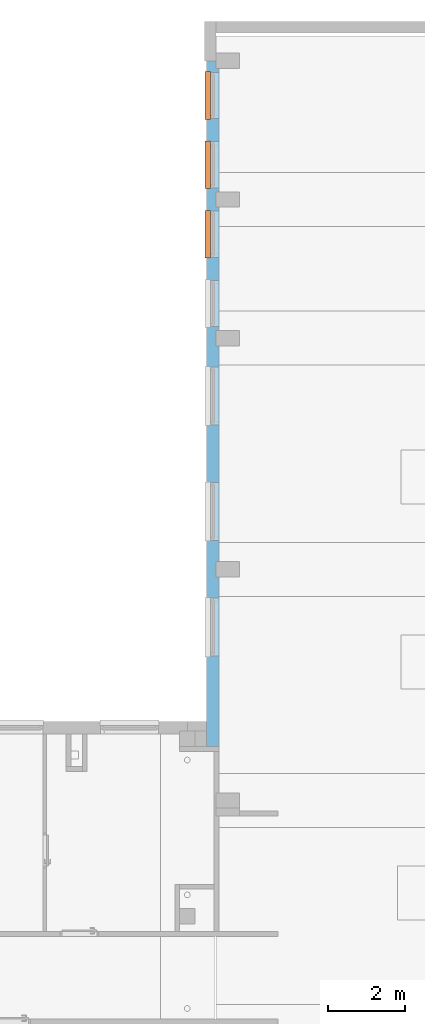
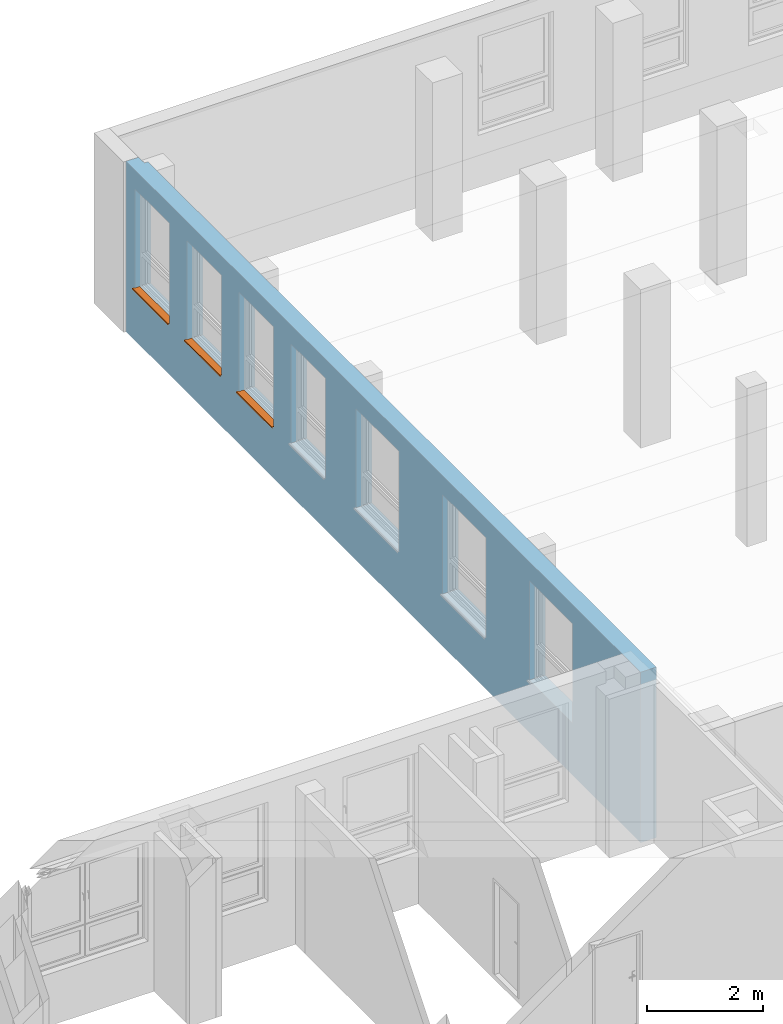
# One storey, part 45 of 50: 3 proxies, 7 openings, plus 1 element that does not belong to this part.
"""IFC4 building model written with IfcOpenShell, lengths in metres."""

import ifcopenshell
import ifcopenshell.guid

model = None  # the IFC model being written
_history = None  # IfcOwnerHistory: only IFC2X3 demands one
_inside = {}  # id of a spatial element -> (the spatial element, [elements in it])
_under = {}  # id of a project, library or spatial element -> (it, [spatial elements below it])
_declared = {}  # id of a project -> (the project, [libraries it declares])
_typed = {}  # id of a type object -> (the type object, [elements of that type])
_made_of = {}  # id of a material, layer set ... -> (it, [elements and type objects made of it])


def new_model(schema):
    """Start an empty IFC model of exactly this schema.

    Asked for "IFC4X3", IfcOpenShell would pick the latest addendum, in which some entities
    have other attributes; the version numbers below select the first issue.
    IFC2X3 requires an IfcOwnerHistory on every rooted entity: one is made here for all.
    """
    global model, _history
    if schema == "IFC4X3":
        model = ifcopenshell.file(schema_version=(4, 3, 0, 0))
    else:
        model = ifcopenshell.file(schema=schema)
    _inside.clear()
    _under.clear()
    _declared.clear()
    _typed.clear()
    _made_of.clear()
    _history = None
    if model.schema == "IFC2X3":
        org = make("IfcOrganization", Name="unknown")
        user = make(
            "IfcPersonAndOrganization",
            ThePerson=make("IfcPerson", FamilyName="unknown"),
            TheOrganization=org,
        )
        app = make(
            "IfcApplication",
            ApplicationDeveloper=org,
            Version="unknown",
            ApplicationFullName="unknown",
            ApplicationIdentifier="unknown",
        )
        _history = make(
            "IfcOwnerHistory",
            OwningUser=user,
            OwningApplication=app,
            ChangeAction="ADDED",
            CreationDate=0,
        )
    return model


def make(cls, **values):
    """One entity of the class cls with the attributes given. An attribute that is None is left unset."""
    return model.create_entity(
        cls, **{name: value for name, value in values.items() if value is not None}
    )


def entity(cls, *values):
    """Any entity or typed value of the class cls, its attributes in the order of the schema. None: left unset."""
    e = model.create_entity(cls)
    for i, value in enumerate(values):
        if value is not None:
            e[i] = value
    return e


def rooted(cls, **values):
    """An entity with a GlobalId (a new one), such as an element, a storey or a relation."""
    return make(cls, GlobalId=ifcopenshell.guid.new(), OwnerHistory=_history, **values)


def si_unit(unit_type, name, prefix=None):
    """IfcSIUnit, for example si_unit("LENGTHUNIT", "METRE", prefix="MILLI")."""
    return make("IfcSIUnit", UnitType=unit_type, Prefix=prefix, Name=name)


def converted_unit(unit_type, name, factor, base, dimensions=None, offset=None):
    """IfcConversionBasedUnit, such as the inch: factor (a typed value) times the base unit."""
    return make(
        "IfcConversionBasedUnit"
        if offset is None
        else "IfcConversionBasedUnitWithOffset",
        ConversionOffset=offset,
        Dimensions=None
        if dimensions is None
        else entity("IfcDimensionalExponents", *dimensions),
        UnitType=unit_type,
        Name=name,
        ConversionFactor=make(
            "IfcMeasureWithUnit", ValueComponent=factor, UnitComponent=base
        ),
    )


def derived_unit(unit_type, elements):
    """IfcDerivedUnit: a product of units, each with its exponent."""
    return make(
        "IfcDerivedUnit",
        Elements=[
            make("IfcDerivedUnitElement", Unit=unit, Exponent=power)
            for unit, power in elements
        ],
        UnitType=unit_type,
    )


def assignment(units):
    """IfcUnitAssignment: the units of a project."""
    return None if units is None else make("IfcUnitAssignment", Units=units)


def point(xyz):
    """IfcCartesianPoint."""
    return None if xyz is None else make("IfcCartesianPoint", Coordinates=xyz)


def direction(xyz):
    """IfcDirection."""
    return None if xyz is None else make("IfcDirection", DirectionRatios=xyz)


def frame(location, z_axis=None, x_axis=None):
    """IfcAxis2Placement3D, a coordinate frame: its origin and axes. An axis left out is left unset."""
    return make(
        "IfcAxis2Placement3D",
        Location=point(location),
        Axis=direction(z_axis),
        RefDirection=direction(x_axis),
    )


def origin():
    """The frame at (0, 0, 0) with its axes left unset."""
    return frame((0.0, 0.0, 0.0))


def origin_with_axes():
    """The frame at (0, 0, 0) with the z axis (0, 0, 1) and the x axis (1, 0, 0) written out."""
    return frame((0.0, 0.0, 0.0), z_axis=(0.0, 0.0, 1.0), x_axis=(1.0, 0.0, 0.0))


def place(relative_to, where):
    """IfcLocalPlacement: puts the frame where relative to a parent placement (None: the world)."""
    return make(
        "IfcLocalPlacement", PlacementRelTo=relative_to, RelativePlacement=where
    )


def context(
    kind, dimensions, precision=None, world=None, true_north=None, identifier=None
):
    """IfcGeometricRepresentationContext, for example the 3D "Model" context."""
    return make(
        "IfcGeometricRepresentationContext",
        ContextIdentifier=identifier,
        ContextType=kind,
        CoordinateSpaceDimension=dimensions,
        Precision=precision,
        WorldCoordinateSystem=world,
        TrueNorth=true_north,
    )


def subcontext(parent, identifier, kind, view, scale=None):
    """IfcGeometricRepresentationSubContext, for example "Body" below "Model"."""
    return make(
        "IfcGeometricRepresentationSubContext",
        ContextIdentifier=identifier,
        ContextType=kind,
        ParentContext=parent,
        TargetScale=scale,
        TargetView=view,
    )


def project(units=None, contexts=None):
    """IfcProject with its units and contexts."""
    return rooted(
        "IfcProject",
        Name="project",
        RepresentationContexts=contexts,
        UnitsInContext=assignment(units),
    )


def spatial(cls, under=None, at=None, **own):
    """A site, building, storey or space (cls), placed at a placement, below another one or the project."""
    s = rooted(cls, ObjectPlacement=at, **own)
    if under is not None:
        _under.setdefault(under.id(), (under, []))[1].append(s)
    return s


def polyline(points):
    """IfcPolyline through the points."""
    return make("IfcPolyline", Points=[point(p) for p in points])


def outline(outer, holes=None, kind="AREA"):
    """IfcArbitraryClosedProfileDef: a profile drawn as a closed curve; with holes, ...WithVoids."""
    if holes is None:
        return make("IfcArbitraryClosedProfileDef", ProfileType=kind, OuterCurve=outer)
    return make(
        "IfcArbitraryProfileDefWithVoids",
        ProfileType=kind,
        OuterCurve=outer,
        InnerCurves=holes,
    )


def extrude(swept, where, along, depth):
    """IfcExtrudedAreaSolid: the profile swept, set in the frame where, extruded along a direction by depth."""
    return make(
        "IfcExtrudedAreaSolid",
        SweptArea=swept,
        Position=where,
        ExtrudedDirection=direction(along),
        Depth=depth,
    )


def clip(a, b, op="DIFFERENCE"):
    """IfcBooleanClippingResult: the solid a cut by the half space b."""
    return make(
        "IfcBooleanClippingResult", Operator=op, FirstOperand=a, SecondOperand=b
    )


def bounded_halfspace(plane, agree, where, boundary):
    """IfcPolygonalBoundedHalfSpace: a half space limited to a polygon's prism."""
    return make(
        "IfcPolygonalBoundedHalfSpace",
        BaseSurface=make("IfcPlane", Position=plane),
        AgreementFlag=agree,
        Position=where,
        PolygonalBoundary=boundary,
    )


def faces_of(points, faces, orient=None, outer=None):
    """IfcFace entities. A face is a list of loops; a loop is a list of indices into points, from 0.

    orient and outer hold one flag for each loop. By default every Orientation is true, the
    first loop of a face is its IfcFaceOuterBound and the others are IfcFaceBound.
    """
    made = []
    for i, loops in enumerate(faces):
        bounds = []
        for j, loop in enumerate(loops):
            is_outer = j == 0 if outer is None else outer[i][j]
            bounds.append(
                make(
                    "IfcFaceOuterBound" if is_outer else "IfcFaceBound",
                    Bound=make("IfcPolyLoop", Polygon=[points[k] for k in loop]),
                    Orientation=True if orient is None else orient[i][j],
                )
            )
        made.append(make("IfcFace", Bounds=bounds))
    return made


def faceted_brep(points, faces, orient=None, outer=None, voids=None):
    """IfcFacetedBrep: a solid bounded by flat faces; with voids (closed shells), ...WithVoids."""
    shared = [point(p) for p in points]
    hull = make("IfcClosedShell", CfsFaces=faces_of(shared, faces, orient, outer))
    if voids is None:
        return make("IfcFacetedBrep", Outer=hull)
    return make(
        "IfcFacetedBrepWithVoids",
        Outer=hull,
        Voids=[
            make(cls, CfsFaces=faces_of(shared, fs, o, b)) for cls, fs, o, b in voids
        ],
    )


def shape(context_of_items, identifier, shape_type, items):
    """IfcShapeRepresentation: the items that make up one representation, for example the "Body"."""
    return make(
        "IfcShapeRepresentation",
        ContextOfItems=context_of_items,
        RepresentationIdentifier=identifier,
        RepresentationType=shape_type,
        Items=items,
    )


def source(mapping_origin, context_of_items, identifier, shape_type, items):
    """IfcRepresentationMap: a shape defined once, which mapped items show again and again."""
    return make(
        "IfcRepresentationMap",
        MappingOrigin=mapping_origin,
        MappedRepresentation=shape(context_of_items, identifier, shape_type, items),
    )


def transform(
    local_origin,
    x_axis=None,
    y_axis=None,
    z_axis=None,
    scale=None,
    scale2=None,
    scale3=None,
    uniform=True,
):
    """IfcCartesianTransformationOperator3D, or its non-uniform kind. x_axis, y_axis, z_axis: its Axis1, 2, 3."""
    if uniform:
        return make(
            "IfcCartesianTransformationOperator3D",
            Axis1=direction(x_axis),
            Axis2=direction(y_axis),
            LocalOrigin=point(local_origin),
            Scale=scale,
            Axis3=direction(z_axis),
        )
    return make(
        "IfcCartesianTransformationOperator3DnonUniform",
        Axis1=direction(x_axis),
        Axis2=direction(y_axis),
        LocalOrigin=point(local_origin),
        Scale=scale,
        Axis3=direction(z_axis),
        Scale2=scale2,
        Scale3=scale3,
    )


def mapped(mapping_source, mapping_target):
    """IfcMappedItem: shows the shape of a source again, moved by a transform."""
    return make(
        "IfcMappedItem", MappingSource=mapping_source, MappingTarget=mapping_target
    )


def material(Name=None, Category=None):
    """IfcMaterial."""
    return make("IfcMaterial", Name=Name, Category=Category)


def layer(
    of_material, thickness, ventilated=None, Name=None, Category=None, Priority=None
):
    """IfcMaterialLayer: one layer of a wall or slab, of a material (None: an air gap)."""
    return make(
        "IfcMaterialLayer",
        Material=of_material,
        LayerThickness=thickness,
        IsVentilated=ventilated,
        Name=Name,
        Category=Category,
        Priority=Priority,
    )


def layer_set(layers, Name=None):
    """IfcMaterialLayerSet."""
    return make("IfcMaterialLayerSet", MaterialLayers=layers, LayerSetName=Name)


def layer_usage(for_layer_set, set_direction, sense, offset, extent=None):
    """IfcMaterialLayerSetUsage: how a layer set lies in its element."""
    return make(
        "IfcMaterialLayerSetUsage",
        ForLayerSet=for_layer_set,
        LayerSetDirection=set_direction,
        DirectionSense=sense,
        OffsetFromReferenceLine=offset,
        ReferenceExtent=extent,
    )


def made_of(thing, what):
    """Note that an element or type object is made of a material, layer set ...; save() writes the relation."""
    if what is not None:
        _made_of.setdefault(what.id(), (what, []))[1].append(thing)
    return thing


def element(
    cls,
    number,
    at=None,
    inside=None,
    cuts=None,
    type_object=None,
    material=None,
    context=None,
    identifier="Body",
    shape_type=None,
    held_by="IfcProductDefinitionShape",
    body=None,
    shapes=None,
    **own,
):
    """One element of the class cls, such as IfcWall. Its Tag is "e" and its number.

    at: its placement. inside: the storey or other place that contains it. cuts: it is an
    opening in that element (IfcRelVoidsElement). A single representation is given by context,
    identifier, shape_type and body (its items); several are given by shapes. held_by: the class
    of the entity that holds the representations. save() writes the other relations.
    """
    e = rooted(cls, Tag="e%d" % number, ObjectPlacement=at, **own)
    if body is not None:
        shapes = [shape(context, identifier, shape_type, body)]
    if shapes is not None:
        e.Representation = make(held_by, Representations=shapes)
    if inside is not None:
        _inside.setdefault(inside.id(), (inside, []))[1].append(e)
    if cuts is not None:
        rooted(
            "IfcRelVoidsElement", RelatingBuildingElement=cuts, RelatedOpeningElement=e
        )
    if type_object is not None:
        _typed.setdefault(type_object.id(), (type_object, []))[1].append(e)
    return made_of(e, material)


def fill(opening, filler):
    """IfcRelFillsElement: the door or window that sits in an opening."""
    return rooted(
        "IfcRelFillsElement",
        RelatingOpeningElement=opening,
        RelatedBuildingElement=filler,
    )


def aggregate(whole, parts):
    """IfcRelAggregates: a whole, such as a stair, and the parts it consists of."""
    return rooted("IfcRelAggregates", RelatingObject=whole, RelatedObjects=parts)


def save(model, path):
    """Write the relations noted so far, then the file.

    IfcRelAggregates (storeys below a building ...), IfcRelContainedInSpatialStructure (elements
    in a storey), IfcRelDefinesByType, IfcRelAssociatesMaterial and IfcRelDeclares: one each for
    every whole, place, type object, material and project.
    """
    for whole, parts in _under.values():
        aggregate(whole, parts)
    for where, things in _inside.values():
        rooted(
            "IfcRelContainedInSpatialStructure",
            RelatedElements=things,
            RelatingStructure=where,
        )
    for kind, things in _typed.values():
        rooted("IfcRelDefinesByType", RelatedObjects=things, RelatingType=kind)
    for what, things in _made_of.values():
        rooted("IfcRelAssociatesMaterial", RelatedObjects=things, RelatingMaterial=what)
    for by, libraries in _declared.values():
        rooted("IfcRelDeclares", RelatingContext=by, RelatedDefinitions=libraries)
    model.write(path)


model = new_model("IFC4")

# Units and contexts
model_context = context("Model", 3, precision=1e-05, world=origin())
body_context = subcontext(model_context, "Body", "Model", "MODEL_VIEW")
ifc_project = project(units=[si_unit("LENGTHUNIT", "METRE"), si_unit("AREAUNIT", "SQUARE_METRE"), si_unit("VOLUMEUNIT", "CUBIC_METRE"), si_unit("MASSUNIT", "GRAM", prefix="KILO"), converted_unit("PLANEANGLEUNIT", "DEGREE", entity("IfcPlaneAngleMeasure", 0.0174532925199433), si_unit("PLANEANGLEUNIT", "RADIAN"), dimensions=[0, 0, 0, 0, 0, 0, 0]), derived_unit("THERMALTRANSMITTANCEUNIT", [(si_unit("POWERUNIT", "WATT"), 1), (si_unit("THERMODYNAMICTEMPERATUREUNIT", "KELVIN"), -1), (si_unit("LENGTHUNIT", "METRE"), -2)]), derived_unit("VOLUMETRICFLOWRATEUNIT", [(si_unit("LENGTHUNIT", "METRE"), 3), (converted_unit("TIMEUNIT", "hour", entity("IfcTimeMeasure", 3600.0), si_unit("TIMEUNIT", "SECOND"), dimensions=[0, 0, 1, 0, 0, 0, 0]), -1), (si_unit("LENGTHUNIT", "METRE"), -1)])], contexts=[model_context])

# Site, building, storey
site_placement = place(None, origin())
site = spatial("IfcSite", under=ifc_project, at=site_placement, Name="3. ASŘ", CompositionType="ELEMENT")
building_placement = place(site_placement, origin())
building = spatial("IfcBuilding", under=site, at=building_placement, Name="Pavilon C", CompositionType="ELEMENT")
storey_placement = place(building_placement, frame((0.0, 0.0, 3.6)))
storey = spatial("IfcBuildingStorey", under=building, at=storey_placement, Name="Půdorys 2.NP", CompositionType="ELEMENT", Elevation=3.6)

# Wall, openings, proxies
ifc_material_1 = material(Name="ZELEZOBETONOVÁ KCE")
ifc_layer = layer(ifc_material_1, 0.32)
ifc_layer_set = layer_set([ifc_layer])
ifc_layer_usage = layer_usage(ifc_layer_set, "AXIS2", "POSITIVE", 0.0)
wall_placement = place(storey_placement, frame((24.5, 32.4, -0.1), z_axis=(0.0, 0.0, 1.0), x_axis=(-2.04380831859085e-16, -1.0, 0.0)))
wall = element("IfcWall", 1, at=wall_placement, inside=storey, material=ifc_layer_usage, Name="ZELEZOBETONOVÁ KCE", context=body_context, shape_type="Clipping", body=[
    clip(clip(clip(extrude(outline(polyline([(-17.8, 0.0), (0.0, 0.0), (-6.54018661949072e-17, 0.32), (-17.6, 0.32), (-17.6, 0.25), (-17.8, 0.25), (-17.8, 0.0)])), frame((17.8, 0.0, 0.0), z_axis=(0.0, 0.0, 1.0), x_axis=(1.0, 0.0, 0.0)), (0.0, 0.0, 1.0), 3.6), bounded_halfspace(frame((3.6, 0.285000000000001, 3.35), z_axis=(0.0, 0.0, 1.0), x_axis=(2.04380831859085e-16, -1.0, 0.0)), True, origin_with_axes(), polyline([(3.4, 0.320000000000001), (3.4, 0.250000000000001), (3.8, 0.250000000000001), (3.8, 0.320000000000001), (3.4, 0.320000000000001)]))), bounded_halfspace(frame((7.2, 0.285000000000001, 3.35), z_axis=(0.0, 0.0, 1.0), x_axis=(2.04380831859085e-16, -1.0, 0.0)), True, origin_with_axes(), polyline([(7.0, 0.320000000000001), (7.0, 0.250000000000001), (7.4, 0.250000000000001), (7.4, 0.320000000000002), (7.0, 0.320000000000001)]))), bounded_halfspace(frame((13.2, 0.285000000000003, 3.35), z_axis=(0.0, 0.0, 1.0), x_axis=(2.04380831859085e-16, -1.0, 0.0)), True, origin_with_axes(), polyline([(13.0, 0.320000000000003), (13.0, 0.250000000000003), (13.4, 0.250000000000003), (13.4, 0.320000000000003), (13.0, 0.320000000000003)]))),
])
opening_1_placement = place(wall_placement, frame((13.95, -7.86866202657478e-16, 1.1), z_axis=(0.0, 1.0, 0.0), x_axis=(0.0, 0.0, 1.0)))
element("IfcOpeningElement", 2, at=opening_1_placement, cuts=wall, Name="Okenní otvor", ObjectType="Opening", context=body_context, shape_type="SweptSolid", body=[
    extrude(outline(polyline([(0.0, 1.5), (2.1, 1.5), (2.1, 0.0), (0.0, 0.0), (0.0, 1.5)])), origin_with_axes(), (0.0, 0.0, 1.0), 0.32),
])
opening_2_placement = place(wall_placement, frame((10.95, -1.40000869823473e-15, 1.1), z_axis=(0.0, 1.0, 0.0), x_axis=(0.0, 0.0, 1.0)))
element("IfcOpeningElement", 3, at=opening_2_placement, cuts=wall, Name="Okenní otvor", ObjectType="Opening", context=body_context, shape_type="SweptSolid", body=[
    extrude(outline(polyline([(0.0, 1.5), (2.1, 1.5), (2.1, 0.0), (0.0, 0.0), (0.0, 1.5)])), origin_with_axes(), (0.0, 0.0, 1.0), 0.32),
])
opening_3_placement = place(wall_placement, frame((7.95, -2.01315119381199e-15, 1.1), z_axis=(0.0, 1.0, 0.0), x_axis=(0.0, 0.0, 1.0)))
element("IfcOpeningElement", 4, at=opening_3_placement, cuts=wall, Name="Okenní otvor", ObjectType="Opening", context=body_context, shape_type="SweptSolid", body=[
    extrude(outline(polyline([(0.0, 1.5), (2.1, 1.5), (2.1, 0.0), (0.0, 0.0), (0.0, 1.5)])), origin_with_axes(), (0.0, 0.0, 1.0), 0.320000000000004),
])
opening_4_placement = place(wall_placement, frame((5.7, 1.16497074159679e-15, 1.1), z_axis=(0.0, 1.0, 0.0), x_axis=(0.0, 0.0, 1.0)))
element("IfcOpeningElement", 5, at=opening_4_placement, cuts=wall, Name="Okenní otvor", ObjectType="Opening", context=body_context, shape_type="SweptSolid", body=[
    extrude(outline(polyline([(0.0, 1.2), (2.1, 1.2), (2.1, 0.0), (0.0, 0.0), (0.0, 1.2)])), origin_with_axes(), (0.0, 0.0, 1.0), 0.32),
])
opening_5_placement = place(wall_placement, frame((3.90000000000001, 7.97085244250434e-16, 1.1), z_axis=(0.0, 1.0, 0.0), x_axis=(0.0, 0.0, 1.0)))
opening_5 = element("IfcOpeningElement", 6, at=opening_5_placement, cuts=wall, Name="Okenní otvor", ObjectType="Opening", context=body_context, shape_type="SweptSolid", body=[
    extrude(outline(polyline([(0.0, 1.2), (2.1, 1.2), (2.1, 0.0), (0.0, 0.0), (0.0, 1.2)])), origin_with_axes(), (0.0, 0.0, 1.0), 0.32),
])
opening_6_placement = place(wall_placement, frame((2.10000000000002, 4.29199746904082e-16, 1.1), z_axis=(0.0, 1.0, 0.0), x_axis=(0.0, 0.0, 1.0)))
opening_6 = element("IfcOpeningElement", 7, at=opening_6_placement, cuts=wall, Name="Okenní otvor", ObjectType="Opening", context=body_context, shape_type="SweptSolid", body=[
    extrude(outline(polyline([(0.0, 1.2), (2.1, 1.2), (2.1, 0.0), (0.0, 0.0), (0.0, 1.2)])), origin_with_axes(), (0.0, 0.0, 1.0), 0.32),
])
opening_7_placement = place(wall_placement, frame((0.300000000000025, 6.13142495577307e-17, 1.1), z_axis=(-1.77635683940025e-16, 1.0, 0.0), x_axis=(0.0, 0.0, 1.0)))
opening_7 = element("IfcOpeningElement", 8, at=opening_7_placement, cuts=wall, Name="Okenní otvor", ObjectType="Opening", context=body_context, shape_type="SweptSolid", body=[
    extrude(outline(polyline([(0.0, 1.2), (2.1, 1.2), (2.1, 0.0), (0.0, 0.0), (0.0, 1.2)])), origin_with_axes(), (0.0, 0.0, 1.0), 0.32),
])
ifc_material_2 = material(Name="PLECH")
shared_shape_1 = source(origin_with_axes(), body_context, "Body", "Brep", [
    faceted_brep([(7.27595761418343e-15, -7.27595761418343e-15, 0.0), (7.27595761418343e-15, 0.0999999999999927, 0.0), (7.27595761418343e-15, 0.0999999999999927, 0.005), (7.27595761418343e-15, -7.27595761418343e-15, 0.005), (1.20000000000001, -7.27595761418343e-15, 0.0), (1.20000000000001, -7.27595761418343e-15, 0.005), (1.20000000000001, 0.0999999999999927, 0.005), (1.20000000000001, 0.0999999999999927, 0.0), (-0.0199999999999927, -7.27595761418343e-15, 0.0), (-0.0199999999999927, -0.0350000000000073, 0.0), (1.22000000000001, -0.0350000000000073, 0.0), (1.22000000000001, -7.27595761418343e-15, 0.0), (1.22000000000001, -7.27595761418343e-15, 0.005), (1.22000000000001, -0.0400000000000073, 0.005), (-0.0199999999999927, -0.0400000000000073, 0.005), (-0.0199999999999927, -7.27595761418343e-15, 0.005), (-0.0199999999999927, -0.0400000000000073, -0.025), (-0.0199999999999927, -0.0350000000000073, -0.025), (1.22000000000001, -0.0350000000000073, -0.025), (1.22000000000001, -0.0400000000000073, -0.025)], [[[0, 1, 2, 3]], [[4, 5, 6, 7]], [[1, 0, 8, 9, 10, 11, 4, 7]], [[2, 1, 7, 6]], [[3, 2, 6, 5, 12, 13, 14, 15]], [[8, 15, 14, 16, 17, 9]], [[11, 10, 18, 19, 13, 12]], [[15, 8, 0, 3]], [[5, 4, 11, 12]], [[16, 14, 13, 19]], [[17, 16, 19, 18]], [[9, 17, 18, 10]]], orient=[[False], [False], [False], [False], [False], [False], [False], [False], [False], [False], [False], [False]]),
    faceted_brep([(-0.0199999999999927, -7.27595761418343e-15, 0.0), (-0.0199999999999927, 0.0999999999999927, 0.0), (-0.0199999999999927, 0.0999999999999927, 0.005), (-0.0199999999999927, -7.27595761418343e-15, 0.005), (7.27595761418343e-15, -7.27595761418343e-15, 0.0), (7.27595761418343e-15, -7.27595761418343e-15, 0.005), (7.27595761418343e-15, 0.0999999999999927, 0.005), (7.27595761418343e-15, 0.0999999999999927, 0.0)], [[[0, 1, 2, 3]], [[4, 5, 6, 7]], [[1, 0, 4, 7]], [[2, 1, 7, 6]], [[3, 2, 6, 5]], [[0, 3, 5, 4]]], orient=[[False], [False], [False], [False], [False], [False]]),
    faceted_brep([(1.20000000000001, -7.27595761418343e-15, 0.0), (1.20000000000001, 0.0999999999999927, 0.0), (1.20000000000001, 0.0999999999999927, 0.005), (1.20000000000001, -7.27595761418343e-15, 0.005), (1.22000000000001, -7.27595761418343e-15, 0.0), (1.22000000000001, -7.27595761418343e-15, 0.005), (1.22000000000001, 0.0999999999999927, 0.005), (1.22000000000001, 0.0999999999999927, 0.0)], [[[0, 1, 2, 3]], [[4, 5, 6, 7]], [[1, 0, 4, 7]], [[2, 1, 7, 6]], [[3, 2, 6, 5]], [[0, 3, 5, 4]]], orient=[[False], [False], [False], [False], [False], [False]]),
])
proxy_1_placement = place(opening_5_placement, frame((0.0, 0.0, 0.0), z_axis=(1.0, 0.0, 0.0), x_axis=(0.0, 1.0, 0.0)))
proxy_1 = element("IfcBuildingElementProxy", 9, at=proxy_1_placement, inside=storey, material=ifc_material_2, Name="Parapet vnější", context=body_context, shape_type="MappedRepresentation", body=[
    mapped(shared_shape_1, transform((0.0, 0.0, 0.0), x_axis=(1.0, 0.0, 0.0), y_axis=(0.0, 1.0, 0.0), z_axis=(0.0, 0.0, 1.0), scale=1.0)),
])
fill(opening_5, proxy_1)
ifc_material_3 = material(Name="PLECH")
shared_shape_2 = source(origin_with_axes(), body_context, "Body", "Brep", [
    faceted_brep([(7.27595761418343e-15, -7.27595761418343e-15, 0.0), (7.27595761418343e-15, 0.0999999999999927, 0.0), (7.27595761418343e-15, 0.0999999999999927, 0.005), (7.27595761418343e-15, -7.27595761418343e-15, 0.005), (1.20000000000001, -7.27595761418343e-15, 0.0), (1.20000000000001, -7.27595761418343e-15, 0.005), (1.20000000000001, 0.0999999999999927, 0.005), (1.20000000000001, 0.0999999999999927, 0.0), (-0.0199999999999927, -7.27595761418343e-15, 0.0), (-0.0199999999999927, -0.0350000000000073, 0.0), (1.22000000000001, -0.0350000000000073, 0.0), (1.22000000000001, -7.27595761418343e-15, 0.0), (1.22000000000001, -7.27595761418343e-15, 0.005), (1.22000000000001, -0.0400000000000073, 0.005), (-0.0199999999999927, -0.0400000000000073, 0.005), (-0.0199999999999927, -7.27595761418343e-15, 0.005), (-0.0199999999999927, -0.0400000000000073, -0.025), (-0.0199999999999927, -0.0350000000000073, -0.025), (1.22000000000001, -0.0350000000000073, -0.025), (1.22000000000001, -0.0400000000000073, -0.025)], [[[0, 1, 2, 3]], [[4, 5, 6, 7]], [[1, 0, 8, 9, 10, 11, 4, 7]], [[2, 1, 7, 6]], [[3, 2, 6, 5, 12, 13, 14, 15]], [[8, 15, 14, 16, 17, 9]], [[11, 10, 18, 19, 13, 12]], [[15, 8, 0, 3]], [[5, 4, 11, 12]], [[16, 14, 13, 19]], [[17, 16, 19, 18]], [[9, 17, 18, 10]]], orient=[[False], [False], [False], [False], [False], [False], [False], [False], [False], [False], [False], [False]]),
    faceted_brep([(-0.0199999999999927, -7.27595761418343e-15, 0.0), (-0.0199999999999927, 0.0999999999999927, 0.0), (-0.0199999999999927, 0.0999999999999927, 0.005), (-0.0199999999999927, -7.27595761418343e-15, 0.005), (7.27595761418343e-15, -7.27595761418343e-15, 0.0), (7.27595761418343e-15, -7.27595761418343e-15, 0.005), (7.27595761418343e-15, 0.0999999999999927, 0.005), (7.27595761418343e-15, 0.0999999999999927, 0.0)], [[[0, 1, 2, 3]], [[4, 5, 6, 7]], [[1, 0, 4, 7]], [[2, 1, 7, 6]], [[3, 2, 6, 5]], [[0, 3, 5, 4]]], orient=[[False], [False], [False], [False], [False], [False]]),
    faceted_brep([(1.20000000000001, -7.27595761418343e-15, 0.0), (1.20000000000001, 0.0999999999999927, 0.0), (1.20000000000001, 0.0999999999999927, 0.005), (1.20000000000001, -7.27595761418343e-15, 0.005), (1.22000000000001, -7.27595761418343e-15, 0.0), (1.22000000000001, -7.27595761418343e-15, 0.005), (1.22000000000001, 0.0999999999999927, 0.005), (1.22000000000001, 0.0999999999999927, 0.0)], [[[0, 1, 2, 3]], [[4, 5, 6, 7]], [[1, 0, 4, 7]], [[2, 1, 7, 6]], [[3, 2, 6, 5]], [[0, 3, 5, 4]]], orient=[[False], [False], [False], [False], [False], [False]]),
])
proxy_2_placement = place(opening_6_placement, frame((0.0, 0.0, 0.0), z_axis=(1.0, 0.0, 0.0), x_axis=(0.0, 1.0, 0.0)))
proxy_2 = element("IfcBuildingElementProxy", 10, at=proxy_2_placement, inside=storey, material=ifc_material_3, Name="Parapet vnější", context=body_context, shape_type="MappedRepresentation", body=[
    mapped(shared_shape_2, transform((0.0, 0.0, 0.0), x_axis=(1.0, 0.0, 0.0), y_axis=(0.0, 1.0, 0.0), z_axis=(0.0, 0.0, 1.0), scale=1.0)),
])
fill(opening_6, proxy_2)
ifc_material_4 = material(Name="PLECH")
shared_shape_3 = source(origin_with_axes(), body_context, "Body", "Brep", [
    faceted_brep([(7.27595761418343e-15, -7.27595761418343e-15, 0.0), (7.27595761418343e-15, 0.0999999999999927, 0.0), (7.27595761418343e-15, 0.0999999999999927, 0.005), (7.27595761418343e-15, -7.27595761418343e-15, 0.005), (1.20000000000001, -7.27595761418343e-15, 0.0), (1.20000000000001, -7.27595761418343e-15, 0.005), (1.20000000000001, 0.0999999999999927, 0.005), (1.20000000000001, 0.0999999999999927, 0.0), (-0.0199999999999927, -7.27595761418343e-15, 0.0), (-0.0199999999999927, -0.0350000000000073, 0.0), (1.22000000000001, -0.0350000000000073, 0.0), (1.22000000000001, -7.27595761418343e-15, 0.0), (1.22000000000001, -7.27595761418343e-15, 0.005), (1.22000000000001, -0.0400000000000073, 0.005), (-0.0199999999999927, -0.0400000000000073, 0.005), (-0.0199999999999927, -7.27595761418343e-15, 0.005), (-0.0199999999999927, -0.0400000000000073, -0.025), (-0.0199999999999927, -0.0350000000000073, -0.025), (1.22000000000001, -0.0350000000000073, -0.025), (1.22000000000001, -0.0400000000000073, -0.025)], [[[0, 1, 2, 3]], [[4, 5, 6, 7]], [[1, 0, 8, 9, 10, 11, 4, 7]], [[2, 1, 7, 6]], [[3, 2, 6, 5, 12, 13, 14, 15]], [[8, 15, 14, 16, 17, 9]], [[11, 10, 18, 19, 13, 12]], [[15, 8, 0, 3]], [[5, 4, 11, 12]], [[16, 14, 13, 19]], [[17, 16, 19, 18]], [[9, 17, 18, 10]]], orient=[[False], [False], [False], [False], [False], [False], [False], [False], [False], [False], [False], [False]]),
    faceted_brep([(-0.0199999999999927, -7.27595761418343e-15, 0.0), (-0.0199999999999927, 0.0999999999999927, 0.0), (-0.0199999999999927, 0.0999999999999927, 0.005), (-0.0199999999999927, -7.27595761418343e-15, 0.005), (7.27595761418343e-15, -7.27595761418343e-15, 0.0), (7.27595761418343e-15, -7.27595761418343e-15, 0.005), (7.27595761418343e-15, 0.0999999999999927, 0.005), (7.27595761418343e-15, 0.0999999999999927, 0.0)], [[[0, 1, 2, 3]], [[4, 5, 6, 7]], [[1, 0, 4, 7]], [[2, 1, 7, 6]], [[3, 2, 6, 5]], [[0, 3, 5, 4]]], orient=[[False], [False], [False], [False], [False], [False]]),
    faceted_brep([(1.20000000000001, -7.27595761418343e-15, 0.0), (1.20000000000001, 0.0999999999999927, 0.0), (1.20000000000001, 0.0999999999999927, 0.005), (1.20000000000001, -7.27595761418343e-15, 0.005), (1.22000000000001, -7.27595761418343e-15, 0.0), (1.22000000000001, -7.27595761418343e-15, 0.005), (1.22000000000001, 0.0999999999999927, 0.005), (1.22000000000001, 0.0999999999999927, 0.0)], [[[0, 1, 2, 3]], [[4, 5, 6, 7]], [[1, 0, 4, 7]], [[2, 1, 7, 6]], [[3, 2, 6, 5]], [[0, 3, 5, 4]]], orient=[[False], [False], [False], [False], [False], [False]]),
])
proxy_3_placement = place(opening_7_placement, frame((0.0, 0.0, 0.0), z_axis=(1.0, 0.0, 0.0), x_axis=(0.0, 1.0, 0.0)))
proxy_3 = element("IfcBuildingElementProxy", 11, at=proxy_3_placement, inside=storey, material=ifc_material_4, Name="Parapet vnější", context=body_context, shape_type="MappedRepresentation", body=[
    mapped(shared_shape_3, transform((0.0, 0.0, 0.0), x_axis=(1.0, 0.0, 0.0), y_axis=(0.0, 1.0, 0.0), z_axis=(0.0, 0.0, 1.0), scale=1.0)),
])
fill(opening_7, proxy_3)

save(model, "model.ifc")
